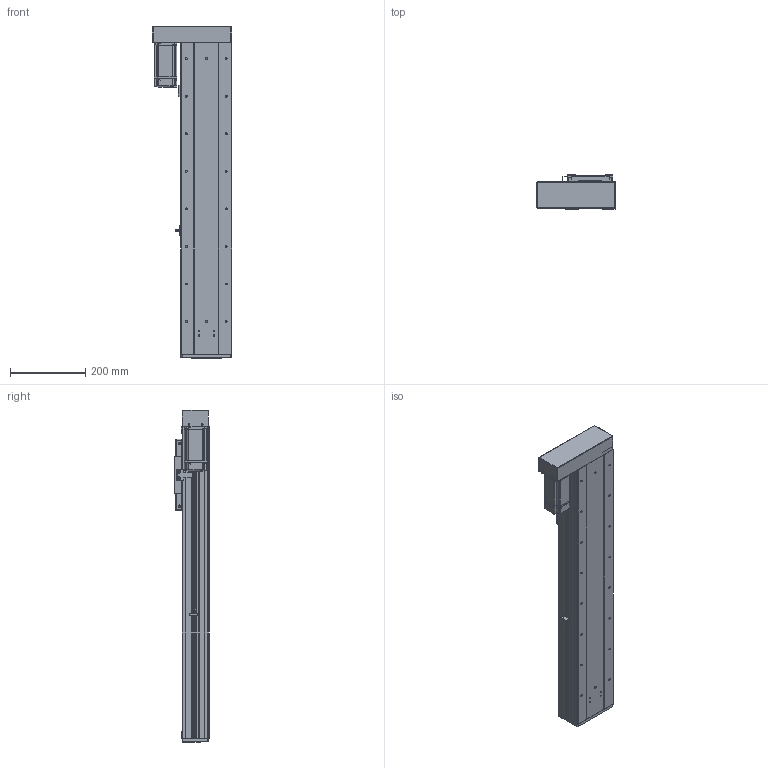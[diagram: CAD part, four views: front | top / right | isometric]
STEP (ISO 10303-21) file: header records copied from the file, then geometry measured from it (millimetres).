
FILE_DESCRIPTION (( 'STEP AP203' ), '1' );
FILE_NAME ('RY140F-L2020-300-LK.SLDASM_550.step', '2021-03-02T08:37:11', ( '盈信电脑' ), ( '东莞市道滘镇水果街19号' ), 'SwSTEP 2.0', 'SolidWorks 2012', '' );
FILE_SCHEMA (( 'CONFIG_CONTROL_DESIGN' ));
Length unit declared in the file: millimetre
Products named in the file (19): RY140F-L2020-300-LK.SLDASM_550; RY140F-转折折电机座（7001）; RY140F-酘衵殏萇儂欶(400W); RY140F-左右折电机安装板(400W M5); 侐源滅袉蝶; RY140F-詩湍揤え; 覜茼ん672; RY140F-672覜茼んえ; 侂狟400W侜督萇儂; RY140F-直连型材铝滑块(16丝杆); RY140F-后盖板(铝件）; 15; RY140F-滅鳥奻裔; RY140F-直连型材铝滑块连接座; RY140F-詩湍幗謫粣; RY100F-詩湍揤踡謫; RY140F-300-LK蛌殏詩湍_550; RY140F-300-LK倰第奻裔啣_550; RY140F-300-LK倰第菁釱_550
Assembly tree (23 placements, depth 3):
  RY140F-L2020-300-LK.SLDASM_550
    RY140F-300-LK倰第菁釱_550
    RY140F-300-LK倰第奻裔啣_550  x2
    RY140F-300-LK蛌殏詩湍_550
    RY140F-直连型材铝滑块连接座
    RY140F-滅鳥奻裔
    RY140F-詩湍幗謫粣
    RY100F-詩湍揤踡謫
    RY140F-直连型材铝滑块(16丝杆)
    RY140F-后盖板(铝件）
    侂狟400W侜督萇儂
      15
    覜茼ん672
    RY140F-672覜茼んえ
    RY140F-詩湍揤え  x2
    侐源滅袉蝶  x4
    RY140F-转折折电机座（7001）
    RY140F-左右折电机安装板(400W M5)
    RY140F-酘衵殏萇儂欶(400W)
Bounding box: 211 x 91 x 884 mm (x, y, z)
Volume: 3648359.8 mm3; surface area: 1296584.2 mm2
Topology: 22 solids, 22 shells, 2021 faces, 5513 edges, 3500 vertices
Faces by surface type: cylinder 980, plane 789, cone 222, bspline 26, torus 4
Entity records: 63827 total; most frequent: CARTESIAN_POINT 13517, DIRECTION 10214, ORIENTED_EDGE 9922, EDGE_CURVE 4961, AXIS2_PLACEMENT_3D 3661, VERTEX_POINT 3240, LINE 2892, VECTOR 2892
